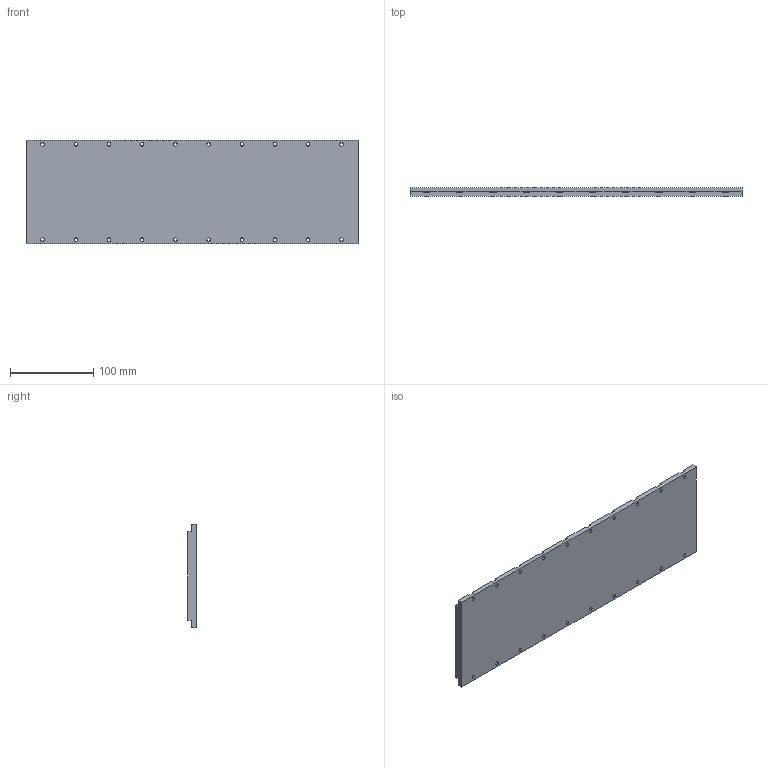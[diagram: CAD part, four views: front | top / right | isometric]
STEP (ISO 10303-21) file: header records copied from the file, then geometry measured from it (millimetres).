
FILE_DESCRIPTION (( 'STEP AP214' ), '1' );
FILE_NAME ('D-MJM100-L400.STEP', '2025-09-05T11:32:23', ( '' ), ( '' ), 'SwSTEP 2.0', 'SolidWorks 2016', '' );
FILE_SCHEMA (( 'AUTOMOTIVE_DESIGN' ));
Length unit declared in the file: millimetre
Products named in the file (1): D-MJM100-L400
Bounding box: 400 x 10.3 x 125 mm (x, y, z)
Volume: 479462.7 mm3; surface area: 111726.1 mm2
Topology: 1 solids, 1 shells, 140 faces, 414 edges, 276 vertices
Faces by surface type: cylinder 70, plane 70
Entity records: 4832 total; most frequent: DIRECTION 836, CARTESIAN_POINT 831, ORIENTED_EDGE 828, EDGE_CURVE 414, AXIS2_PLACEMENT_3D 281, VERTEX_POINT 276, VECTOR 274, LINE 274
